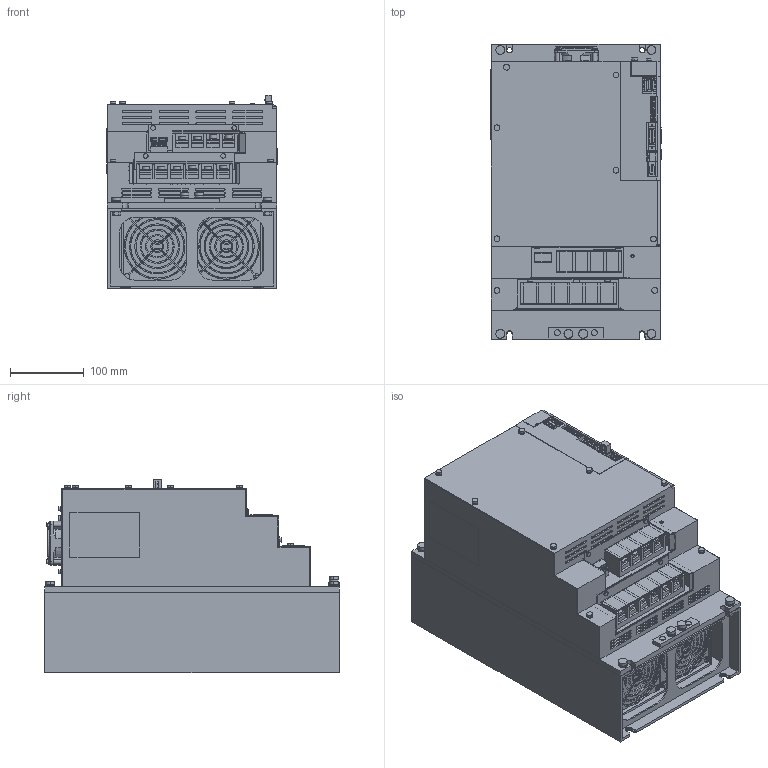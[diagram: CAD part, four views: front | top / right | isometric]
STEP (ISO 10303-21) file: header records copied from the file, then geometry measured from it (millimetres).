
FILE_DESCRIPTION (( 'STEP AP203' ), '1' );
FILE_NAME ('sgdv_370d1_a.STEP', '2009-05-13T13:16:43', ( 'T' ), ( 'T' ), 'SwSTEP 2.0', 'SolidWorks 2006052', '' );
FILE_SCHEMA (( 'CONFIG_CONTROL_DESIGN' ));
Length unit declared in the file: millimetre
Products named in the file (8): sgdv_370d1_a_cover; sgdv_370d1_a_base; sgdv_370d1_a; sgdv_370d1_a_cover2; sgdv_370d1_a_connector; sgdv_370d1_a_cover3; sgdv_370d1_a_cover4; sgdv_370d1_a_cover5
Assembly tree (8 placements, depth 2):
  sgdv_370d1_a
    sgdv_370d1_a_cover
    sgdv_370d1_a_connector
    sgdv_370d1_a_cover2  x2
    sgdv_370d1_a_cover5
    sgdv_370d1_a_base
    sgdv_370d1_a_cover4
    sgdv_370d1_a_cover3
Bounding box: 230.6 x 400 x 263 mm (x, y, z)
Volume: 17422588.2 mm3; surface area: 799983.7 mm2
Topology: 8 solids, 8 shells, 2748 faces, 7711 edges, 5093 vertices
Faces by surface type: plane 2196, cylinder 531, cone 20, sphere 1
Entity records: 88443 total; most frequent: CARTESIAN_POINT 15596, ORIENTED_EDGE 15314, DIRECTION 14459, EDGE_CURVE 7657, VECTOR 6267, LINE 6267, VERTEX_POINT 5057, AXIS2_PLACEMENT_3D 4096
